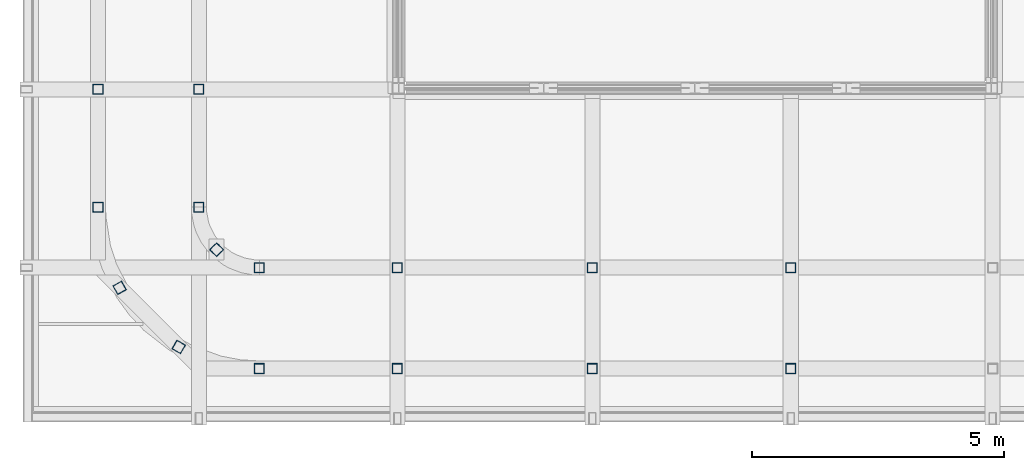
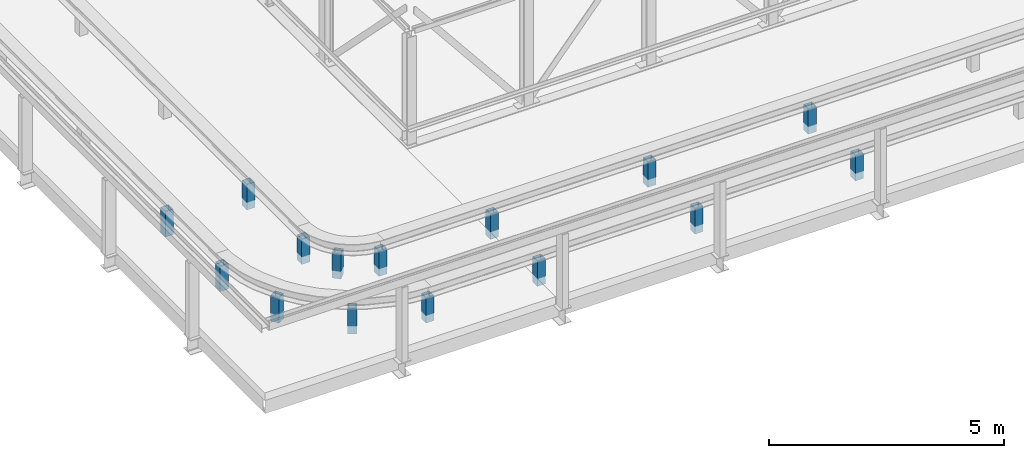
# One storey, part 6 of 27: 15 columns.
"""IFC2X3 building model written with IfcOpenShell, lengths in millimetres."""

import ifcopenshell
import ifcopenshell.guid

model = None  # the IFC model being written
_history = None  # IfcOwnerHistory: only IFC2X3 demands one
_inside = {}  # id of a spatial element -> (the spatial element, [elements in it])
_under = {}  # id of a project, library or spatial element -> (it, [spatial elements below it])
_declared = {}  # id of a project -> (the project, [libraries it declares])
_typed = {}  # id of a type object -> (the type object, [elements of that type])
_made_of = {}  # id of a material, layer set ... -> (it, [elements and type objects made of it])


def new_model(schema):
    """Start an empty IFC model of exactly this schema.

    Asked for "IFC4X3", IfcOpenShell would pick the latest addendum, in which some entities
    have other attributes; the version numbers below select the first issue.
    IFC2X3 requires an IfcOwnerHistory on every rooted entity: one is made here for all.
    """
    global model, _history
    if schema == "IFC4X3":
        model = ifcopenshell.file(schema_version=(4, 3, 0, 0))
    else:
        model = ifcopenshell.file(schema=schema)
    _inside.clear()
    _under.clear()
    _declared.clear()
    _typed.clear()
    _made_of.clear()
    _history = None
    if model.schema == "IFC2X3":
        org = make("IfcOrganization", Name="unknown")
        user = make(
            "IfcPersonAndOrganization",
            ThePerson=make("IfcPerson", FamilyName="unknown"),
            TheOrganization=org,
        )
        app = make(
            "IfcApplication",
            ApplicationDeveloper=org,
            Version="unknown",
            ApplicationFullName="unknown",
            ApplicationIdentifier="unknown",
        )
        _history = make(
            "IfcOwnerHistory",
            OwningUser=user,
            OwningApplication=app,
            ChangeAction="ADDED",
            CreationDate=0,
        )
    return model


def make(cls, **values):
    """One entity of the class cls with the attributes given. An attribute that is None is left unset."""
    return model.create_entity(
        cls, **{name: value for name, value in values.items() if value is not None}
    )


def entity(cls, *values):
    """Any entity or typed value of the class cls, its attributes in the order of the schema. None: left unset."""
    e = model.create_entity(cls)
    for i, value in enumerate(values):
        if value is not None:
            e[i] = value
    return e


def rooted(cls, **values):
    """An entity with a GlobalId (a new one), such as an element, a storey or a relation."""
    return make(cls, GlobalId=ifcopenshell.guid.new(), OwnerHistory=_history, **values)


def si_unit(unit_type, name, prefix=None):
    """IfcSIUnit, for example si_unit("LENGTHUNIT", "METRE", prefix="MILLI")."""
    return make("IfcSIUnit", UnitType=unit_type, Prefix=prefix, Name=name)


def converted_unit(unit_type, name, factor, base, dimensions=None, offset=None):
    """IfcConversionBasedUnit, such as the inch: factor (a typed value) times the base unit."""
    return make(
        "IfcConversionBasedUnit"
        if offset is None
        else "IfcConversionBasedUnitWithOffset",
        ConversionOffset=offset,
        Dimensions=None
        if dimensions is None
        else entity("IfcDimensionalExponents", *dimensions),
        UnitType=unit_type,
        Name=name,
        ConversionFactor=make(
            "IfcMeasureWithUnit", ValueComponent=factor, UnitComponent=base
        ),
    )


def derived_unit(unit_type, elements):
    """IfcDerivedUnit: a product of units, each with its exponent."""
    return make(
        "IfcDerivedUnit",
        Elements=[
            make("IfcDerivedUnitElement", Unit=unit, Exponent=power)
            for unit, power in elements
        ],
        UnitType=unit_type,
    )


def assignment(units):
    """IfcUnitAssignment: the units of a project."""
    return None if units is None else make("IfcUnitAssignment", Units=units)


def point(xyz):
    """IfcCartesianPoint."""
    return None if xyz is None else make("IfcCartesianPoint", Coordinates=xyz)


def direction(xyz):
    """IfcDirection."""
    return None if xyz is None else make("IfcDirection", DirectionRatios=xyz)


def frame(location, z_axis=None, x_axis=None):
    """IfcAxis2Placement3D, a coordinate frame: its origin and axes. An axis left out is left unset."""
    return make(
        "IfcAxis2Placement3D",
        Location=point(location),
        Axis=direction(z_axis),
        RefDirection=direction(x_axis),
    )


def frame_2d(location, x_axis=None):
    """IfcAxis2Placement2D, a coordinate frame in the plane: its origin and x axis."""
    return make(
        "IfcAxis2Placement2D", Location=point(location), RefDirection=direction(x_axis)
    )


def origin():
    """The frame at (0, 0, 0) with its axes left unset."""
    return frame((0.0, 0.0, 0.0))


def place(relative_to, where):
    """IfcLocalPlacement: puts the frame where relative to a parent placement (None: the world)."""
    return make(
        "IfcLocalPlacement", PlacementRelTo=relative_to, RelativePlacement=where
    )


def context(
    kind, dimensions, precision=None, world=None, true_north=None, identifier=None
):
    """IfcGeometricRepresentationContext, for example the 3D "Model" context."""
    return make(
        "IfcGeometricRepresentationContext",
        ContextIdentifier=identifier,
        ContextType=kind,
        CoordinateSpaceDimension=dimensions,
        Precision=precision,
        WorldCoordinateSystem=world,
        TrueNorth=true_north,
    )


def subcontext(parent, identifier, kind, view, scale=None):
    """IfcGeometricRepresentationSubContext, for example "Body" below "Model"."""
    return make(
        "IfcGeometricRepresentationSubContext",
        ContextIdentifier=identifier,
        ContextType=kind,
        ParentContext=parent,
        TargetScale=scale,
        TargetView=view,
    )


def project(units=None, contexts=None):
    """IfcProject with its units and contexts."""
    return rooted(
        "IfcProject",
        Name="project",
        RepresentationContexts=contexts,
        UnitsInContext=assignment(units),
    )


def spatial(cls, under=None, at=None, **own):
    """A site, building, storey or space (cls), placed at a placement, below another one or the project."""
    s = rooted(cls, ObjectPlacement=at, **own)
    if under is not None:
        _under.setdefault(under.id(), (under, []))[1].append(s)
    return s


def polyline(points):
    """IfcPolyline through the points."""
    return make("IfcPolyline", Points=[point(p) for p in points])


def circle_curve(where, radius):
    """IfcCircle in the frame where."""
    return make("IfcCircle", Position=where, Radius=radius)


def parameter(value):
    """IfcParameterValue: where a trimmed curve begins or ends, as a parameter of its basis curve."""
    return model.create_entity("IfcParameterValue", value)


def trimmed(basis, trim1, trim2, sense, master):
    """IfcTrimmedCurve: the piece of a basis curve between two trims."""
    return make(
        "IfcTrimmedCurve",
        BasisCurve=basis,
        Trim1=trim1,
        Trim2=trim2,
        SenseAgreement=sense,
        MasterRepresentation=master,
    )


def segment(curve, same_sense, transition):
    """IfcCompositeCurveSegment."""
    return make(
        "IfcCompositeCurveSegment",
        Transition=transition,
        SameSense=same_sense,
        ParentCurve=curve,
    )


def composite_curve(segments, self_intersect=None):
    """IfcCompositeCurve: segments joined end to end."""
    return make("IfcCompositeCurve", Segments=segments, SelfIntersect=self_intersect)


def outline(outer, holes=None, kind="AREA"):
    """IfcArbitraryClosedProfileDef: a profile drawn as a closed curve; with holes, ...WithVoids."""
    if holes is None:
        return make("IfcArbitraryClosedProfileDef", ProfileType=kind, OuterCurve=outer)
    return make(
        "IfcArbitraryProfileDefWithVoids",
        ProfileType=kind,
        OuterCurve=outer,
        InnerCurves=holes,
    )


def extrude(swept, where, along, depth):
    """IfcExtrudedAreaSolid: the profile swept, set in the frame where, extruded along a direction by depth."""
    return make(
        "IfcExtrudedAreaSolid",
        SweptArea=swept,
        Position=where,
        ExtrudedDirection=direction(along),
        Depth=depth,
    )


def shape(context_of_items, identifier, shape_type, items):
    """IfcShapeRepresentation: the items that make up one representation, for example the "Body"."""
    return make(
        "IfcShapeRepresentation",
        ContextOfItems=context_of_items,
        RepresentationIdentifier=identifier,
        RepresentationType=shape_type,
        Items=items,
    )


def source(mapping_origin, context_of_items, identifier, shape_type, items):
    """IfcRepresentationMap: a shape defined once, which mapped items show again and again."""
    return make(
        "IfcRepresentationMap",
        MappingOrigin=mapping_origin,
        MappedRepresentation=shape(context_of_items, identifier, shape_type, items),
    )


def transform(
    local_origin,
    x_axis=None,
    y_axis=None,
    z_axis=None,
    scale=None,
    scale2=None,
    scale3=None,
    uniform=True,
):
    """IfcCartesianTransformationOperator3D, or its non-uniform kind. x_axis, y_axis, z_axis: its Axis1, 2, 3."""
    if uniform:
        return make(
            "IfcCartesianTransformationOperator3D",
            Axis1=direction(x_axis),
            Axis2=direction(y_axis),
            LocalOrigin=point(local_origin),
            Scale=scale,
            Axis3=direction(z_axis),
        )
    return make(
        "IfcCartesianTransformationOperator3DnonUniform",
        Axis1=direction(x_axis),
        Axis2=direction(y_axis),
        LocalOrigin=point(local_origin),
        Scale=scale,
        Axis3=direction(z_axis),
        Scale2=scale2,
        Scale3=scale3,
    )


def mapped(mapping_source, mapping_target):
    """IfcMappedItem: shows the shape of a source again, moved by a transform."""
    return make(
        "IfcMappedItem", MappingSource=mapping_source, MappingTarget=mapping_target
    )


def material(Name=None, Category=None):
    """IfcMaterial."""
    return make("IfcMaterial", Name=Name, Category=Category)


def made_of(thing, what):
    """Note that an element or type object is made of a material, layer set ...; save() writes the relation."""
    if what is not None:
        _made_of.setdefault(what.id(), (what, []))[1].append(thing)
    return thing


def type_object(cls, material=None, **own):
    """A type object (cls), such as IfcWallType, which elements share."""
    return made_of(rooted(cls, **own), material)


def type_shapes(of_type, sources):
    """Give a type object the sources (RepresentationMaps) that its elements show as mapped items."""
    of_type.RepresentationMaps = sources


def element(
    cls,
    number,
    at=None,
    inside=None,
    cuts=None,
    type_object=None,
    material=None,
    context=None,
    identifier="Body",
    shape_type=None,
    held_by="IfcProductDefinitionShape",
    body=None,
    shapes=None,
    **own,
):
    """One element of the class cls, such as IfcWall. Its Tag is "e" and its number.

    at: its placement. inside: the storey or other place that contains it. cuts: it is an
    opening in that element (IfcRelVoidsElement). A single representation is given by context,
    identifier, shape_type and body (its items); several are given by shapes. held_by: the class
    of the entity that holds the representations. save() writes the other relations.
    """
    e = rooted(cls, Tag="e%d" % number, ObjectPlacement=at, **own)
    if body is not None:
        shapes = [shape(context, identifier, shape_type, body)]
    if shapes is not None:
        e.Representation = make(held_by, Representations=shapes)
    if inside is not None:
        _inside.setdefault(inside.id(), (inside, []))[1].append(e)
    if cuts is not None:
        rooted(
            "IfcRelVoidsElement", RelatingBuildingElement=cuts, RelatedOpeningElement=e
        )
    if type_object is not None:
        _typed.setdefault(type_object.id(), (type_object, []))[1].append(e)
    return made_of(e, material)


def aggregate(whole, parts):
    """IfcRelAggregates: a whole, such as a stair, and the parts it consists of."""
    return rooted("IfcRelAggregates", RelatingObject=whole, RelatedObjects=parts)


def save(model, path):
    """Write the relations noted so far, then the file.

    IfcRelAggregates (storeys below a building ...), IfcRelContainedInSpatialStructure (elements
    in a storey), IfcRelDefinesByType, IfcRelAssociatesMaterial and IfcRelDeclares: one each for
    every whole, place, type object, material and project.
    """
    for whole, parts in _under.values():
        aggregate(whole, parts)
    for where, things in _inside.values():
        rooted(
            "IfcRelContainedInSpatialStructure",
            RelatedElements=things,
            RelatingStructure=where,
        )
    for kind, things in _typed.values():
        rooted("IfcRelDefinesByType", RelatedObjects=things, RelatingType=kind)
    for what, things in _made_of.values():
        rooted("IfcRelAssociatesMaterial", RelatedObjects=things, RelatingMaterial=what)
    for by, libraries in _declared.values():
        rooted("IfcRelDeclares", RelatingContext=by, RelatedDefinitions=libraries)
    model.write(path)


model = new_model("IFC2X3")

# Units and contexts
model_context = context("Model", 3, precision=0.01, world=origin(), true_north=direction((6.12303176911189e-17, 1.0)))
body_context = subcontext(model_context, "Body", "Model", "MODEL_VIEW")
ifc_project = project(units=[si_unit("LENGTHUNIT", "METRE", prefix="MILLI"), si_unit("AREAUNIT", "SQUARE_METRE"), si_unit("VOLUMEUNIT", "CUBIC_METRE"), converted_unit("PLANEANGLEUNIT", "DEGREE", entity("IfcRatioMeasure", 0.0174532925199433), si_unit("PLANEANGLEUNIT", "RADIAN"), dimensions=[0, 0, 0, 0, 0, 0, 0]), si_unit("MASSUNIT", "GRAM", prefix="KILO"), derived_unit("MASSDENSITYUNIT", [(si_unit("MASSUNIT", "GRAM", prefix="KILO"), 1), (si_unit("LENGTHUNIT", "METRE"), -3)]), si_unit("TIMEUNIT", "SECOND"), si_unit("FREQUENCYUNIT", "HERTZ"), si_unit("THERMODYNAMICTEMPERATUREUNIT", "DEGREE_CELSIUS"), derived_unit("THERMALTRANSMITTANCEUNIT", [(si_unit("MASSUNIT", "GRAM", prefix="KILO"), 1), (si_unit("THERMODYNAMICTEMPERATUREUNIT", "KELVIN"), -1), (si_unit("TIMEUNIT", "SECOND"), -3)]), derived_unit("VOLUMETRICFLOWRATEUNIT", [(si_unit("LENGTHUNIT", "METRE"), 3), (si_unit("TIMEUNIT", "SECOND"), -1)]), si_unit("ELECTRICCURRENTUNIT", "AMPERE"), si_unit("ELECTRICVOLTAGEUNIT", "VOLT"), si_unit("POWERUNIT", "WATT"), si_unit("FORCEUNIT", "NEWTON", prefix="KILO"), si_unit("ILLUMINANCEUNIT", "LUX"), si_unit("LUMINOUSFLUXUNIT", "LUMEN"), si_unit("LUMINOUSINTENSITYUNIT", "CANDELA"), derived_unit("USERDEFINED", [(si_unit("MASSUNIT", "GRAM", prefix="KILO"), -1), (si_unit("LENGTHUNIT", "METRE"), -2), (si_unit("TIMEUNIT", "SECOND"), 3), (si_unit("LUMINOUSFLUXUNIT", "LUMEN"), 1)]), derived_unit("LINEARVELOCITYUNIT", [(si_unit("LENGTHUNIT", "METRE"), 1), (si_unit("TIMEUNIT", "SECOND"), -1)]), si_unit("PRESSUREUNIT", "PASCAL"), derived_unit("USERDEFINED", [(si_unit("LENGTHUNIT", "METRE"), -2), (si_unit("MASSUNIT", "GRAM", prefix="KILO"), 1), (si_unit("TIMEUNIT", "SECOND"), -2)])], contexts=[model_context])

# Site, building, storey
site_placement = place(None, origin())
site = spatial("IfcSite", under=ifc_project, at=site_placement, Name="Default", CompositionType="ELEMENT")
building_placement = place(site_placement, origin())
building = spatial("IfcBuilding", under=site, at=building_placement, Name="niet gebruiken", CompositionType="ELEMENT")
storey_placement = place(building_placement, frame((0.0, 0.0, 187640.0)))
storey = spatial("IfcBuildingStorey", under=building, at=storey_placement, Name="59 negenenvijftigste verdieping", CompositionType="ELEMENT", Elevation=187640.0)

# Columns
ifc_material = material(Name="NLRS_h2_staal")
column_type_1 = type_object("IfcColumnType", Name="kolom buisprofiel warmgevormd vierkant SHSH_200x200x10", PredefinedType="COLUMN", material=ifc_material)
shared_shape_1 = source(origin(), body_context, "Body", "SweptSolid", [
    extrude(outline(polyline([(-100.0, -100.0), (100.0, -100.0), (100.0, 100.0), (-100.0, 100.0), (-100.0, -100.0)]), holes=[composite_curve([segment(trimmed(circle_curve(frame_2d((-80.0, -80.0), x_axis=(0.0, 1.0)), 10.0), [parameter(90.0)], [parameter(180.0)], True, "PARAMETER"), False, "CONTINUOUS"), segment(polyline([(-90.0, -80.0), (-90.0, 80.0)]), True, "CONTINUOUS"), segment(trimmed(circle_curve(frame_2d((-80.0, 80.0), x_axis=(0.0, 1.0)), 10.0), [parameter(360.0)], [parameter(89.9999999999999)], True, "PARAMETER"), False, "CONTINUOUS"), segment(polyline([(-80.0, 90.0), (80.0, 90.0)]), True, "CONTINUOUS"), segment(trimmed(circle_curve(frame_2d((80.0, 80.0), x_axis=(0.0, 1.0)), 10.0), [parameter(270.0)], [parameter(360.0)], True, "PARAMETER"), False, "CONTINUOUS"), segment(polyline([(90.0, 80.0), (90.0, -80.0)]), True, "CONTINUOUS"), segment(trimmed(circle_curve(frame_2d((80.0, -80.0), x_axis=(0.0, 1.0)), 10.0), [parameter(180.0)], [parameter(270.0)], True, "PARAMETER"), False, "CONTINUOUS"), segment(polyline([(80.0, -90.0), (-80.0, -90.0)]), True, "CONTINUOUS")], self_intersect=False)]), frame((129916.666666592, 10400.3287196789, 187350.0)), (0.0, 0.0, 1.0), 659.999999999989),
])
type_shapes(column_type_1, [shared_shape_1])
column_1_placement = place(storey_placement, frame((0.0, 0.0, -187640.0)))
element("IfcColumn", 1, at=column_1_placement, inside=storey, type_object=column_type_1, material=ifc_material, Name="NLRS_28.11_SCO_TLB_stalen kolom buisprofiel warmgevormd vierkant_gen:kolom buisprofiel warmgevormd vierkant SHSH_200x200x10", ObjectType="kolom buisprofiel warmgevormd vierkant SHSH_200x200x10", context=body_context, shape_type="MappedRepresentation", body=[
    mapped(shared_shape_1, transform((0.0, 0.0, 0.0), scale=1.0)),
])
column_type_2 = type_object("IfcColumnType", Name="kolom buisprofiel warmgevormd vierkant SHSH_200x200x10", PredefinedType="COLUMN", material=ifc_material)
shared_shape_2 = source(origin(), body_context, "Body", "SweptSolid", [
    extrude(outline(polyline([(-100.0, -100.0), (100.0, -100.0), (100.0, 100.0), (-100.0, 100.0), (-100.0, -100.0)]), holes=[composite_curve([segment(trimmed(circle_curve(frame_2d((-80.0, -80.0), x_axis=(0.0, 1.0)), 10.0), [parameter(90.0)], [parameter(180.0)], True, "PARAMETER"), False, "CONTINUOUS"), segment(polyline([(-90.0, -80.0), (-90.0, 80.0)]), True, "CONTINUOUS"), segment(trimmed(circle_curve(frame_2d((-80.0, 80.0), x_axis=(0.0, 1.0)), 10.0), [parameter(360.0)], [parameter(89.9999999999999)], True, "PARAMETER"), False, "CONTINUOUS"), segment(polyline([(-80.0, 90.0), (80.0, 90.0)]), True, "CONTINUOUS"), segment(trimmed(circle_curve(frame_2d((80.0, 80.0), x_axis=(0.0, 1.0)), 10.0), [parameter(270.0)], [parameter(360.0)], True, "PARAMETER"), False, "CONTINUOUS"), segment(polyline([(90.0, 80.0), (90.0, -80.0)]), True, "CONTINUOUS"), segment(trimmed(circle_curve(frame_2d((80.0, -80.0), x_axis=(0.0, 1.0)), 10.0), [parameter(180.0)], [parameter(270.0)], True, "PARAMETER"), False, "CONTINUOUS"), segment(polyline([(80.0, -90.0), (-80.0, -90.0)]), True, "CONTINUOUS")], self_intersect=False)]), frame((131916.666666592, 10400.3287196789, 187350.0)), (0.0, 0.0, 1.0), 659.999999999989),
])
type_shapes(column_type_2, [shared_shape_2])
column_2_placement = place(storey_placement, frame((0.0, 0.0, -187640.0)))
element("IfcColumn", 2, at=column_2_placement, inside=storey, type_object=column_type_2, material=ifc_material, Name="NLRS_28.11_SCO_TLB_stalen kolom buisprofiel warmgevormd vierkant_gen:kolom buisprofiel warmgevormd vierkant SHSH_200x200x10", ObjectType="kolom buisprofiel warmgevormd vierkant SHSH_200x200x10", context=body_context, shape_type="MappedRepresentation", body=[
    mapped(shared_shape_2, transform((0.0, 0.0, 0.0), scale=1.0)),
])
column_type_3 = type_object("IfcColumnType", Name="kolom buisprofiel warmgevormd vierkant SHSH_200x200x10", PredefinedType="COLUMN", material=ifc_material)
shared_shape_3 = source(origin(), body_context, "Body", "SweptSolid", [
    extrude(outline(polyline([(-100.0, -100.0), (100.0, -100.0), (100.0, 100.0), (-100.0, 100.0), (-100.0, -100.0)]), holes=[composite_curve([segment(trimmed(circle_curve(frame_2d((-80.0, -80.0), x_axis=(0.0, 1.0)), 10.0), [parameter(90.0)], [parameter(180.0)], True, "PARAMETER"), False, "CONTINUOUS"), segment(polyline([(-90.0, -80.0), (-90.0, 80.0)]), True, "CONTINUOUS"), segment(trimmed(circle_curve(frame_2d((-80.0, 80.0), x_axis=(0.0, 1.0)), 10.0), [parameter(360.0)], [parameter(89.9999999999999)], True, "PARAMETER"), False, "CONTINUOUS"), segment(polyline([(-80.0, 90.0), (80.0, 90.0)]), True, "CONTINUOUS"), segment(trimmed(circle_curve(frame_2d((80.0, 80.0), x_axis=(0.0, 1.0)), 10.0), [parameter(270.0)], [parameter(360.0)], True, "PARAMETER"), False, "CONTINUOUS"), segment(polyline([(90.0, 80.0), (90.0, -80.0)]), True, "CONTINUOUS"), segment(trimmed(circle_curve(frame_2d((80.0, -80.0), x_axis=(0.0, 1.0)), 10.0), [parameter(180.0)], [parameter(270.0)], True, "PARAMETER"), False, "CONTINUOUS"), segment(polyline([(80.0, -90.0), (-80.0, -90.0)]), True, "CONTINUOUS")], self_intersect=False)]), frame((143650.0, 4865.0, 187350.0)), (0.0, 0.0, 1.0), 659.999999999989),
])
type_shapes(column_type_3, [shared_shape_3])
column_3_placement = place(storey_placement, frame((0.0, 0.0, -187640.0)))
element("IfcColumn", 3, at=column_3_placement, inside=storey, type_object=column_type_3, material=ifc_material, Name="NLRS_28.11_SCO_TLB_stalen kolom buisprofiel warmgevormd vierkant_gen:kolom buisprofiel warmgevormd vierkant SHSH_200x200x10", ObjectType="kolom buisprofiel warmgevormd vierkant SHSH_200x200x10", context=body_context, shape_type="MappedRepresentation", body=[
    mapped(shared_shape_3, transform((0.0, 0.0, 0.0), scale=1.0)),
])
column_type_4 = type_object("IfcColumnType", Name="kolom buisprofiel warmgevormd vierkant SHSH_200x200x10", PredefinedType="COLUMN", material=ifc_material)
shared_shape_4 = source(origin(), body_context, "Body", "SweptSolid", [
    extrude(outline(polyline([(-100.0, -100.0), (100.0, -100.0), (100.0, 100.0), (-100.0, 100.0), (-100.0, -100.0)]), holes=[composite_curve([segment(trimmed(circle_curve(frame_2d((-80.0, -80.0), x_axis=(0.0, 1.0)), 10.0), [parameter(90.0)], [parameter(180.0)], True, "PARAMETER"), False, "CONTINUOUS"), segment(polyline([(-90.0, -80.0), (-90.0, 80.0)]), True, "CONTINUOUS"), segment(trimmed(circle_curve(frame_2d((-80.0, 80.0), x_axis=(0.0, 1.0)), 10.0), [parameter(360.0)], [parameter(89.9999999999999)], True, "PARAMETER"), False, "CONTINUOUS"), segment(polyline([(-80.0, 90.0), (80.0, 90.0)]), True, "CONTINUOUS"), segment(trimmed(circle_curve(frame_2d((80.0, 80.0), x_axis=(0.0, 1.0)), 10.0), [parameter(270.0)], [parameter(360.0)], True, "PARAMETER"), False, "CONTINUOUS"), segment(polyline([(90.0, 80.0), (90.0, -80.0)]), True, "CONTINUOUS"), segment(trimmed(circle_curve(frame_2d((80.0, -80.0), x_axis=(0.0, 1.0)), 10.0), [parameter(180.0)], [parameter(270.0)], True, "PARAMETER"), False, "CONTINUOUS"), segment(polyline([(80.0, -90.0), (-80.0, -90.0)]), True, "CONTINUOUS")], self_intersect=False)]), frame((143650.0, 6865.0, 187350.0)), (0.0, 0.0, 1.0), 659.999999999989),
])
type_shapes(column_type_4, [shared_shape_4])
column_4_placement = place(storey_placement, frame((0.0, 0.0, -187640.0)))
element("IfcColumn", 4, at=column_4_placement, inside=storey, type_object=column_type_4, material=ifc_material, Name="NLRS_28.11_SCO_TLB_stalen kolom buisprofiel warmgevormd vierkant_gen:kolom buisprofiel warmgevormd vierkant SHSH_200x200x10", ObjectType="kolom buisprofiel warmgevormd vierkant SHSH_200x200x10", context=body_context, shape_type="MappedRepresentation", body=[
    mapped(shared_shape_4, transform((0.0, 0.0, 0.0), scale=1.0)),
])
column_type_5 = type_object("IfcColumnType", Name="kolom buisprofiel warmgevormd vierkant SHSH_200x200x10", PredefinedType="COLUMN", material=ifc_material)
shared_shape_5 = source(origin(), body_context, "Body", "SweptSolid", [
    extrude(outline(polyline([(-100.0, -100.0), (100.0, -100.0), (100.0, 100.0), (-100.0, 100.0), (-100.0, -100.0)]), holes=[composite_curve([segment(trimmed(circle_curve(frame_2d((-80.0, -80.0), x_axis=(0.0, 1.0)), 10.0), [parameter(90.0)], [parameter(180.0)], True, "PARAMETER"), False, "CONTINUOUS"), segment(polyline([(-90.0, -80.0), (-90.0, 80.0)]), True, "CONTINUOUS"), segment(trimmed(circle_curve(frame_2d((-80.0, 80.0), x_axis=(0.0, 1.0)), 10.0), [parameter(360.0)], [parameter(89.9999999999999)], True, "PARAMETER"), False, "CONTINUOUS"), segment(polyline([(-80.0, 90.0), (80.0, 90.0)]), True, "CONTINUOUS"), segment(trimmed(circle_curve(frame_2d((80.0, 80.0), x_axis=(0.0, 1.0)), 10.0), [parameter(270.0)], [parameter(360.0)], True, "PARAMETER"), False, "CONTINUOUS"), segment(polyline([(90.0, 80.0), (90.0, -80.0)]), True, "CONTINUOUS"), segment(trimmed(circle_curve(frame_2d((80.0, -80.0), x_axis=(0.0, 1.0)), 10.0), [parameter(180.0)], [parameter(270.0)], True, "PARAMETER"), False, "CONTINUOUS"), segment(polyline([(80.0, -90.0), (-80.0, -90.0)]), True, "CONTINUOUS")], self_intersect=False)]), frame((139716.666666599, 4865.0, 187350.0)), (0.0, 0.0, 1.0), 659.999999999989),
])
type_shapes(column_type_5, [shared_shape_5])
column_5_placement = place(storey_placement, frame((0.0, 0.0, -187640.0)))
element("IfcColumn", 5, at=column_5_placement, inside=storey, type_object=column_type_5, material=ifc_material, Name="NLRS_28.11_SCO_TLB_stalen kolom buisprofiel warmgevormd vierkant_gen:kolom buisprofiel warmgevormd vierkant SHSH_200x200x10", ObjectType="kolom buisprofiel warmgevormd vierkant SHSH_200x200x10", context=body_context, shape_type="MappedRepresentation", body=[
    mapped(shared_shape_5, transform((0.0, 0.0, 0.0), scale=1.0)),
])
column_type_6 = type_object("IfcColumnType", Name="kolom buisprofiel warmgevormd vierkant SHSH_200x200x10", PredefinedType="COLUMN", material=ifc_material)
shared_shape_6 = source(origin(), body_context, "Body", "SweptSolid", [
    extrude(outline(polyline([(-100.0, -100.0), (100.0, -100.0), (100.0, 100.0), (-100.0, 100.0), (-100.0, -100.0)]), holes=[composite_curve([segment(trimmed(circle_curve(frame_2d((-80.0, -80.0), x_axis=(0.0, 1.0)), 10.0), [parameter(90.0)], [parameter(180.0)], True, "PARAMETER"), False, "CONTINUOUS"), segment(polyline([(-90.0, -80.0), (-90.0, 80.0)]), True, "CONTINUOUS"), segment(trimmed(circle_curve(frame_2d((-80.0, 80.0), x_axis=(0.0, 1.0)), 10.0), [parameter(360.0)], [parameter(89.9999999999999)], True, "PARAMETER"), False, "CONTINUOUS"), segment(polyline([(-80.0, 90.0), (80.0, 90.0)]), True, "CONTINUOUS"), segment(trimmed(circle_curve(frame_2d((80.0, 80.0), x_axis=(0.0, 1.0)), 10.0), [parameter(270.0)], [parameter(360.0)], True, "PARAMETER"), False, "CONTINUOUS"), segment(polyline([(90.0, 80.0), (90.0, -80.0)]), True, "CONTINUOUS"), segment(trimmed(circle_curve(frame_2d((80.0, -80.0), x_axis=(0.0, 1.0)), 10.0), [parameter(180.0)], [parameter(270.0)], True, "PARAMETER"), False, "CONTINUOUS"), segment(polyline([(80.0, -90.0), (-80.0, -90.0)]), True, "CONTINUOUS")], self_intersect=False)]), frame((139716.666666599, 6865.0, 187350.0)), (0.0, 0.0, 1.0), 659.999999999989),
])
type_shapes(column_type_6, [shared_shape_6])
column_6_placement = place(storey_placement, frame((0.0, 0.0, -187640.0)))
element("IfcColumn", 6, at=column_6_placement, inside=storey, type_object=column_type_6, material=ifc_material, Name="NLRS_28.11_SCO_TLB_stalen kolom buisprofiel warmgevormd vierkant_gen:kolom buisprofiel warmgevormd vierkant SHSH_200x200x10", ObjectType="kolom buisprofiel warmgevormd vierkant SHSH_200x200x10", context=body_context, shape_type="MappedRepresentation", body=[
    mapped(shared_shape_6, transform((0.0, 0.0, 0.0), scale=1.0)),
])
column_type_7 = type_object("IfcColumnType", Name="kolom buisprofiel warmgevormd vierkant SHSH_200x200x10", PredefinedType="COLUMN", material=ifc_material)
shared_shape_7 = source(origin(), body_context, "Body", "SweptSolid", [
    extrude(outline(polyline([(-100.0, -100.0), (100.0, -100.0), (100.0, 100.0), (-100.0, 100.0), (-100.0, -100.0)]), holes=[composite_curve([segment(trimmed(circle_curve(frame_2d((-80.0, -80.0), x_axis=(0.0, 1.0)), 10.0), [parameter(90.0)], [parameter(180.0)], True, "PARAMETER"), False, "CONTINUOUS"), segment(polyline([(-90.0, -80.0), (-90.0, 80.0)]), True, "CONTINUOUS"), segment(trimmed(circle_curve(frame_2d((-80.0, 80.0), x_axis=(0.0, 1.0)), 10.0), [parameter(360.0)], [parameter(89.9999999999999)], True, "PARAMETER"), False, "CONTINUOUS"), segment(polyline([(-80.0, 90.0), (80.0, 90.0)]), True, "CONTINUOUS"), segment(trimmed(circle_curve(frame_2d((80.0, 80.0), x_axis=(0.0, 1.0)), 10.0), [parameter(270.0)], [parameter(360.0)], True, "PARAMETER"), False, "CONTINUOUS"), segment(polyline([(90.0, 80.0), (90.0, -80.0)]), True, "CONTINUOUS"), segment(trimmed(circle_curve(frame_2d((80.0, -80.0), x_axis=(0.0, 1.0)), 10.0), [parameter(180.0)], [parameter(270.0)], True, "PARAMETER"), False, "CONTINUOUS"), segment(polyline([(80.0, -90.0), (-80.0, -90.0)]), True, "CONTINUOUS")], self_intersect=False)]), frame((135850.0, 4865.0, 187350.0)), (0.0, 0.0, 1.0), 659.999999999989),
])
type_shapes(column_type_7, [shared_shape_7])
column_7_placement = place(storey_placement, frame((0.0, 0.0, -187640.0)))
element("IfcColumn", 7, at=column_7_placement, inside=storey, type_object=column_type_7, material=ifc_material, Name="NLRS_28.11_SCO_TLB_stalen kolom buisprofiel warmgevormd vierkant_gen:kolom buisprofiel warmgevormd vierkant SHSH_200x200x10", ObjectType="kolom buisprofiel warmgevormd vierkant SHSH_200x200x10", context=body_context, shape_type="MappedRepresentation", body=[
    mapped(shared_shape_7, transform((0.0, 0.0, 0.0), scale=1.0)),
])
column_type_8 = type_object("IfcColumnType", Name="kolom buisprofiel warmgevormd vierkant SHSH_200x200x10", PredefinedType="COLUMN", material=ifc_material)
shared_shape_8 = source(origin(), body_context, "Body", "SweptSolid", [
    extrude(outline(polyline([(-100.0, -100.0), (100.0, -100.0), (100.0, 100.0), (-100.0, 100.0), (-100.0, -100.0)]), holes=[composite_curve([segment(trimmed(circle_curve(frame_2d((-80.0, -80.0), x_axis=(0.0, 1.0)), 10.0), [parameter(90.0)], [parameter(180.0)], True, "PARAMETER"), False, "CONTINUOUS"), segment(polyline([(-90.0, -80.0), (-90.0, 80.0)]), True, "CONTINUOUS"), segment(trimmed(circle_curve(frame_2d((-80.0, 80.0), x_axis=(0.0, 1.0)), 10.0), [parameter(360.0)], [parameter(89.9999999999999)], True, "PARAMETER"), False, "CONTINUOUS"), segment(polyline([(-80.0, 90.0), (80.0, 90.0)]), True, "CONTINUOUS"), segment(trimmed(circle_curve(frame_2d((80.0, 80.0), x_axis=(0.0, 1.0)), 10.0), [parameter(270.0)], [parameter(360.0)], True, "PARAMETER"), False, "CONTINUOUS"), segment(polyline([(90.0, 80.0), (90.0, -80.0)]), True, "CONTINUOUS"), segment(trimmed(circle_curve(frame_2d((80.0, -80.0), x_axis=(0.0, 1.0)), 10.0), [parameter(180.0)], [parameter(270.0)], True, "PARAMETER"), False, "CONTINUOUS"), segment(polyline([(80.0, -90.0), (-80.0, -90.0)]), True, "CONTINUOUS")], self_intersect=False)]), frame((135850.0, 6865.0, 187350.0)), (0.0, 0.0, 1.0), 659.999999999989),
])
type_shapes(column_type_8, [shared_shape_8])
column_8_placement = place(storey_placement, frame((0.0, 0.0, -187640.0)))
element("IfcColumn", 8, at=column_8_placement, inside=storey, type_object=column_type_8, material=ifc_material, Name="NLRS_28.11_SCO_TLB_stalen kolom buisprofiel warmgevormd vierkant_gen:kolom buisprofiel warmgevormd vierkant SHSH_200x200x10", ObjectType="kolom buisprofiel warmgevormd vierkant SHSH_200x200x10", context=body_context, shape_type="MappedRepresentation", body=[
    mapped(shared_shape_8, transform((0.0, 0.0, 0.0), scale=1.0)),
])
column_type_9 = type_object("IfcColumnType", Name="kolom buisprofiel warmgevormd vierkant SHSH_200x200x10", PredefinedType="COLUMN", material=ifc_material)
shared_shape_9 = source(origin(), body_context, "Body", "SweptSolid", [
    extrude(outline(polyline([(-100.0, -100.0), (100.0, -100.0), (100.0, 100.0), (-100.0, 100.0), (-100.0, -100.0)]), holes=[composite_curve([segment(trimmed(circle_curve(frame_2d((-80.0, -80.0), x_axis=(0.0, 1.0)), 10.0), [parameter(90.0)], [parameter(180.0)], True, "PARAMETER"), False, "CONTINUOUS"), segment(polyline([(-90.0, -80.0), (-90.0, 80.0)]), True, "CONTINUOUS"), segment(trimmed(circle_curve(frame_2d((-80.0, 80.0), x_axis=(0.0, 1.0)), 10.0), [parameter(360.0)], [parameter(89.9999999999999)], True, "PARAMETER"), False, "CONTINUOUS"), segment(polyline([(-80.0, 90.0), (80.0, 90.0)]), True, "CONTINUOUS"), segment(trimmed(circle_curve(frame_2d((80.0, 80.0), x_axis=(0.0, 1.0)), 10.0), [parameter(270.0)], [parameter(360.0)], True, "PARAMETER"), False, "CONTINUOUS"), segment(polyline([(90.0, 80.0), (90.0, -80.0)]), True, "CONTINUOUS"), segment(trimmed(circle_curve(frame_2d((80.0, -80.0), x_axis=(0.0, 1.0)), 10.0), [parameter(180.0)], [parameter(270.0)], True, "PARAMETER"), False, "CONTINUOUS"), segment(polyline([(80.0, -90.0), (-80.0, -90.0)]), True, "CONTINUOUS")], self_intersect=False)]), frame((131516.6666667, 5293.71870788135, 187350.0), z_axis=(0.0, 0.0, 1.0), x_axis=(0.86602540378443, -0.500000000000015, 0.0)), (0.0, 0.0, 1.0), 659.999999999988),
])
type_shapes(column_type_9, [shared_shape_9])
column_9_placement = place(storey_placement, frame((0.0, 0.0, -187640.0)))
element("IfcColumn", 9, at=column_9_placement, inside=storey, type_object=column_type_9, material=ifc_material, Name="NLRS_28.11_SCO_TLB_stalen kolom buisprofiel warmgevormd vierkant_gen:kolom buisprofiel warmgevormd vierkant SHSH_200x200x10", ObjectType="kolom buisprofiel warmgevormd vierkant SHSH_200x200x10", context=body_context, shape_type="MappedRepresentation", body=[
    mapped(shared_shape_9, transform((0.0, 0.0, 0.0), scale=1.0)),
])
column_type_10 = type_object("IfcColumnType", Name="kolom buisprofiel warmgevormd vierkant SHSH_200x200x10", PredefinedType="COLUMN", material=ifc_material)
shared_shape_10 = source(origin(), body_context, "Body", "SweptSolid", [
    extrude(outline(polyline([(-100.0, -100.0), (100.0, -100.0), (100.0, 100.0), (-100.0, 100.0), (-100.0, -100.0)]), holes=[composite_curve([segment(trimmed(circle_curve(frame_2d((-80.0, -80.0), x_axis=(0.0, 1.0)), 10.0), [parameter(90.0)], [parameter(180.0)], True, "PARAMETER"), False, "CONTINUOUS"), segment(polyline([(-90.0, -80.0), (-90.0, 80.0)]), True, "CONTINUOUS"), segment(trimmed(circle_curve(frame_2d((-80.0, 80.0), x_axis=(0.0, 1.0)), 10.0), [parameter(360.0)], [parameter(89.9999999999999)], True, "PARAMETER"), False, "CONTINUOUS"), segment(polyline([(-80.0, 90.0), (80.0, 90.0)]), True, "CONTINUOUS"), segment(trimmed(circle_curve(frame_2d((80.0, 80.0), x_axis=(0.0, 1.0)), 10.0), [parameter(270.0)], [parameter(360.0)], True, "PARAMETER"), False, "CONTINUOUS"), segment(polyline([(90.0, 80.0), (90.0, -80.0)]), True, "CONTINUOUS"), segment(trimmed(circle_curve(frame_2d((80.0, -80.0), x_axis=(0.0, 1.0)), 10.0), [parameter(180.0)], [parameter(270.0)], True, "PARAMETER"), False, "CONTINUOUS"), segment(polyline([(80.0, -90.0), (-80.0, -90.0)]), True, "CONTINUOUS")], self_intersect=False)]), frame((131916.666666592, 8065.0, 187350.0)), (0.0, 0.0, 1.0), 659.999999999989),
])
type_shapes(column_type_10, [shared_shape_10])
column_10_placement = place(storey_placement, frame((0.0, 0.0, -187640.0)))
element("IfcColumn", 10, at=column_10_placement, inside=storey, type_object=column_type_10, material=ifc_material, Name="NLRS_28.11_SCO_TLB_stalen kolom buisprofiel warmgevormd vierkant_gen:kolom buisprofiel warmgevormd vierkant SHSH_200x200x10", ObjectType="kolom buisprofiel warmgevormd vierkant SHSH_200x200x10", context=body_context, shape_type="MappedRepresentation", body=[
    mapped(shared_shape_10, transform((0.0, 0.0, 0.0), scale=1.0)),
])
column_type_11 = type_object("IfcColumnType", Name="kolom buisprofiel warmgevormd vierkant SHSH_200x200x10", PredefinedType="COLUMN", material=ifc_material)
shared_shape_11 = source(origin(), body_context, "Body", "SweptSolid", [
    extrude(outline(polyline([(-100.0, -100.0), (100.0, -100.0), (100.0, 100.0), (-100.0, 100.0), (-100.0, -100.0)]), holes=[composite_curve([segment(trimmed(circle_curve(frame_2d((-80.0, -80.0), x_axis=(0.0, 1.0)), 10.0), [parameter(90.0)], [parameter(180.0)], True, "PARAMETER"), False, "CONTINUOUS"), segment(polyline([(-90.0, -80.0), (-90.0, 80.0)]), True, "CONTINUOUS"), segment(trimmed(circle_curve(frame_2d((-80.0, 80.0), x_axis=(0.0, 1.0)), 10.0), [parameter(360.0)], [parameter(89.9999999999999)], True, "PARAMETER"), False, "CONTINUOUS"), segment(polyline([(-80.0, 90.0), (80.0, 90.0)]), True, "CONTINUOUS"), segment(trimmed(circle_curve(frame_2d((80.0, 80.0), x_axis=(0.0, 1.0)), 10.0), [parameter(270.0)], [parameter(360.0)], True, "PARAMETER"), False, "CONTINUOUS"), segment(polyline([(90.0, 80.0), (90.0, -80.0)]), True, "CONTINUOUS"), segment(trimmed(circle_curve(frame_2d((80.0, -80.0), x_axis=(0.0, 1.0)), 10.0), [parameter(180.0)], [parameter(270.0)], True, "PARAMETER"), False, "CONTINUOUS"), segment(polyline([(80.0, -90.0), (-80.0, -90.0)]), True, "CONTINUOUS")], self_intersect=False)]), frame((129916.666666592, 8065.0, 187350.0)), (0.0, 0.0, 1.0), 659.999999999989),
])
type_shapes(column_type_11, [shared_shape_11])
column_11_placement = place(storey_placement, frame((0.0, 0.0, -187640.0)))
element("IfcColumn", 11, at=column_11_placement, inside=storey, type_object=column_type_11, material=ifc_material, Name="NLRS_28.11_SCO_TLB_stalen kolom buisprofiel warmgevormd vierkant_gen:kolom buisprofiel warmgevormd vierkant SHSH_200x200x10", ObjectType="kolom buisprofiel warmgevormd vierkant SHSH_200x200x10", context=body_context, shape_type="MappedRepresentation", body=[
    mapped(shared_shape_11, transform((0.0, 0.0, 0.0), scale=1.0)),
])
column_type_12 = type_object("IfcColumnType", Name="kolom buisprofiel warmgevormd vierkant SHSH_200x200x10", PredefinedType="COLUMN", material=ifc_material)
shared_shape_12 = source(origin(), body_context, "Body", "SweptSolid", [
    extrude(outline(polyline([(-100.0, -100.0), (100.0, -100.0), (100.0, 100.0), (-100.0, 100.0), (-100.0, -100.0)]), holes=[composite_curve([segment(trimmed(circle_curve(frame_2d((-80.0, -80.0), x_axis=(0.0, 1.0)), 10.0), [parameter(90.0)], [parameter(180.0)], True, "PARAMETER"), False, "CONTINUOUS"), segment(polyline([(-90.0, -80.0), (-90.0, 80.0)]), True, "CONTINUOUS"), segment(trimmed(circle_curve(frame_2d((-80.0, 80.0), x_axis=(0.0, 1.0)), 10.0), [parameter(360.0)], [parameter(89.9999999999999)], True, "PARAMETER"), False, "CONTINUOUS"), segment(polyline([(-80.0, 90.0), (80.0, 90.0)]), True, "CONTINUOUS"), segment(trimmed(circle_curve(frame_2d((80.0, 80.0), x_axis=(0.0, 1.0)), 10.0), [parameter(270.0)], [parameter(360.0)], True, "PARAMETER"), False, "CONTINUOUS"), segment(polyline([(90.0, 80.0), (90.0, -80.0)]), True, "CONTINUOUS"), segment(trimmed(circle_curve(frame_2d((80.0, -80.0), x_axis=(0.0, 1.0)), 10.0), [parameter(180.0)], [parameter(270.0)], True, "PARAMETER"), False, "CONTINUOUS"), segment(polyline([(80.0, -90.0), (-80.0, -90.0)]), True, "CONTINUOUS")], self_intersect=False)]), frame((130345.385374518, 6465.0, 187350.0), z_axis=(0.0, 0.0, 1.0), x_axis=(0.499999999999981, -0.86602540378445, 0.0)), (0.0, 0.0, 1.0), 659.999999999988),
])
type_shapes(column_type_12, [shared_shape_12])
column_12_placement = place(storey_placement, frame((0.0, 0.0, -187640.0)))
element("IfcColumn", 12, at=column_12_placement, inside=storey, type_object=column_type_12, material=ifc_material, Name="NLRS_28.11_SCO_TLB_stalen kolom buisprofiel warmgevormd vierkant_gen:kolom buisprofiel warmgevormd vierkant SHSH_200x200x10", ObjectType="kolom buisprofiel warmgevormd vierkant SHSH_200x200x10", context=body_context, shape_type="MappedRepresentation", body=[
    mapped(shared_shape_12, transform((0.0, 0.0, 0.0), scale=1.0)),
])
column_type_13 = type_object("IfcColumnType", Name="kolom buisprofiel warmgevormd vierkant SHSH_200x200x10", PredefinedType="COLUMN", material=ifc_material)
shared_shape_13 = source(origin(), body_context, "Body", "SweptSolid", [
    extrude(outline(polyline([(-100.0, -100.0), (100.0, -100.0), (100.0, 100.0), (-100.0, 100.0), (-100.0, -100.0)]), holes=[composite_curve([segment(trimmed(circle_curve(frame_2d((-80.0, -80.0), x_axis=(0.0, 1.0)), 10.0), [parameter(90.0)], [parameter(180.0)], True, "PARAMETER"), False, "CONTINUOUS"), segment(polyline([(-90.0, -80.0), (-90.0, 80.0)]), True, "CONTINUOUS"), segment(trimmed(circle_curve(frame_2d((-80.0, 80.0), x_axis=(0.0, 1.0)), 10.0), [parameter(360.0)], [parameter(89.9999999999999)], True, "PARAMETER"), False, "CONTINUOUS"), segment(polyline([(-80.0, 90.0), (80.0, 90.0)]), True, "CONTINUOUS"), segment(trimmed(circle_curve(frame_2d((80.0, 80.0), x_axis=(0.0, 1.0)), 10.0), [parameter(270.0)], [parameter(360.0)], True, "PARAMETER"), False, "CONTINUOUS"), segment(polyline([(90.0, 80.0), (90.0, -80.0)]), True, "CONTINUOUS"), segment(trimmed(circle_curve(frame_2d((80.0, -80.0), x_axis=(0.0, 1.0)), 10.0), [parameter(180.0)], [parameter(270.0)], True, "PARAMETER"), False, "CONTINUOUS"), segment(polyline([(80.0, -90.0), (-80.0, -90.0)]), True, "CONTINUOUS")], self_intersect=False)]), frame((133116.666666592, 4865.0, 187350.0)), (0.0, 0.0, 1.0), 659.999999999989),
])
type_shapes(column_type_13, [shared_shape_13])
column_13_placement = place(storey_placement, frame((0.0, 0.0, -187640.0)))
element("IfcColumn", 13, at=column_13_placement, inside=storey, type_object=column_type_13, material=ifc_material, Name="NLRS_28.11_SCO_TLB_stalen kolom buisprofiel warmgevormd vierkant_gen:kolom buisprofiel warmgevormd vierkant SHSH_200x200x10", ObjectType="kolom buisprofiel warmgevormd vierkant SHSH_200x200x10", context=body_context, shape_type="MappedRepresentation", body=[
    mapped(shared_shape_13, transform((0.0, 0.0, 0.0), scale=1.0)),
])
column_type_14 = type_object("IfcColumnType", Name="kolom buisprofiel warmgevormd vierkant SHSH_200x200x10", PredefinedType="COLUMN", material=ifc_material)
shared_shape_14 = source(origin(), body_context, "Body", "SweptSolid", [
    extrude(outline(polyline([(-100.0, -100.0), (100.0, -100.0), (100.0, 100.0), (-100.0, 100.0), (-100.0, -100.0)]), holes=[composite_curve([segment(trimmed(circle_curve(frame_2d((-80.0, -80.0), x_axis=(0.0, 1.0)), 10.0), [parameter(90.0)], [parameter(180.0)], True, "PARAMETER"), False, "CONTINUOUS"), segment(polyline([(-90.0, -80.0), (-90.0, 80.0)]), True, "CONTINUOUS"), segment(trimmed(circle_curve(frame_2d((-80.0, 80.0), x_axis=(0.0, 1.0)), 10.0), [parameter(360.0)], [parameter(89.9999999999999)], True, "PARAMETER"), False, "CONTINUOUS"), segment(polyline([(-80.0, 90.0), (80.0, 90.0)]), True, "CONTINUOUS"), segment(trimmed(circle_curve(frame_2d((80.0, 80.0), x_axis=(0.0, 1.0)), 10.0), [parameter(270.0)], [parameter(360.0)], True, "PARAMETER"), False, "CONTINUOUS"), segment(polyline([(90.0, 80.0), (90.0, -80.0)]), True, "CONTINUOUS"), segment(trimmed(circle_curve(frame_2d((80.0, -80.0), x_axis=(0.0, 1.0)), 10.0), [parameter(180.0)], [parameter(270.0)], True, "PARAMETER"), False, "CONTINUOUS"), segment(polyline([(80.0, -90.0), (-80.0, -90.0)]), True, "CONTINUOUS")], self_intersect=False)]), frame((133116.666666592, 6865.0, 187350.0)), (0.0, 0.0, 1.0), 659.999999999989),
])
type_shapes(column_type_14, [shared_shape_14])
column_14_placement = place(storey_placement, frame((0.0, 0.0, -187640.0)))
element("IfcColumn", 14, at=column_14_placement, inside=storey, type_object=column_type_14, material=ifc_material, Name="NLRS_28.11_SCO_TLB_stalen kolom buisprofiel warmgevormd vierkant_gen:kolom buisprofiel warmgevormd vierkant SHSH_200x200x10", ObjectType="kolom buisprofiel warmgevormd vierkant SHSH_200x200x10", context=body_context, shape_type="MappedRepresentation", body=[
    mapped(shared_shape_14, transform((0.0, 0.0, 0.0), scale=1.0)),
])
column_type_15 = type_object("IfcColumnType", Name="kolom buisprofiel warmgevormd vierkant SHSH_200x200x10", PredefinedType="COLUMN", material=ifc_material)
shared_shape_15 = source(origin(), body_context, "Body", "SweptSolid", [
    extrude(outline(polyline([(-100.0, -100.0), (100.0, -100.0), (100.0, 100.0), (-100.0, 100.0), (-100.0, -100.0)]), holes=[composite_curve([segment(trimmed(circle_curve(frame_2d((-80.0, -80.0), x_axis=(0.0, 1.0)), 10.0), [parameter(90.0)], [parameter(180.0)], True, "PARAMETER"), False, "CONTINUOUS"), segment(polyline([(-90.0, -80.0), (-90.0, 80.0)]), True, "CONTINUOUS"), segment(trimmed(circle_curve(frame_2d((-80.0, 80.0), x_axis=(0.0, 1.0)), 10.0), [parameter(360.0)], [parameter(89.9999999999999)], True, "PARAMETER"), False, "CONTINUOUS"), segment(polyline([(-80.0, 90.0), (80.0, 90.0)]), True, "CONTINUOUS"), segment(trimmed(circle_curve(frame_2d((80.0, 80.0), x_axis=(0.0, 1.0)), 10.0), [parameter(270.0)], [parameter(360.0)], True, "PARAMETER"), False, "CONTINUOUS"), segment(polyline([(90.0, 80.0), (90.0, -80.0)]), True, "CONTINUOUS"), segment(trimmed(circle_curve(frame_2d((80.0, -80.0), x_axis=(0.0, 1.0)), 10.0), [parameter(180.0)], [parameter(270.0)], True, "PARAMETER"), False, "CONTINUOUS"), segment(polyline([(80.0, -90.0), (-80.0, -90.0)]), True, "CONTINUOUS")], self_intersect=False)]), frame((132268.138529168, 7220.7218626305, 187350.0), z_axis=(0.0, 0.0, 1.0), x_axis=(0.707106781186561, -0.707106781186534, 0.0)), (0.0, 0.0, 1.0), 659.999999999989),
])
type_shapes(column_type_15, [shared_shape_15])
column_15_placement = place(storey_placement, frame((0.0, 0.0, -187640.0)))
element("IfcColumn", 15, at=column_15_placement, inside=storey, type_object=column_type_15, material=ifc_material, Name="NLRS_28.11_SCO_TLB_stalen kolom buisprofiel warmgevormd vierkant_gen:kolom buisprofiel warmgevormd vierkant SHSH_200x200x10", ObjectType="kolom buisprofiel warmgevormd vierkant SHSH_200x200x10", context=body_context, shape_type="MappedRepresentation", body=[
    mapped(shared_shape_15, transform((0.0, 0.0, 0.0), scale=1.0)),
])

save(model, "model.ifc")
